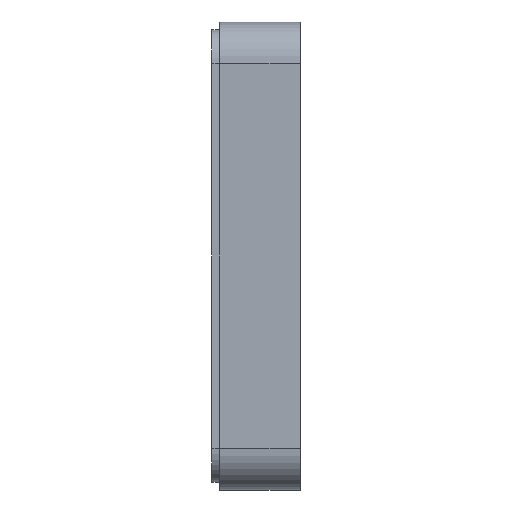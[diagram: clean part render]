
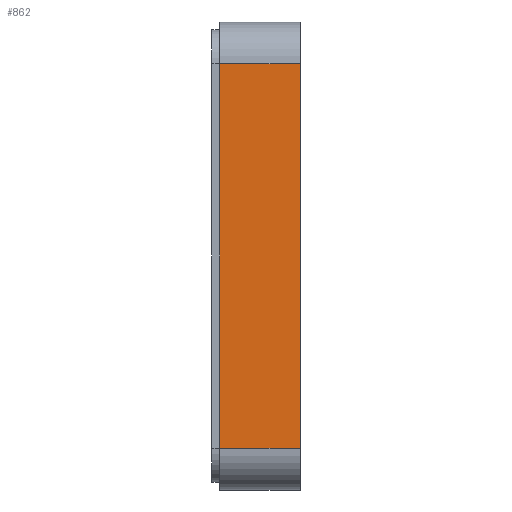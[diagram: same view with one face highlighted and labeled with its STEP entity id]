
A CAD part, left-side view. The second image highlights one B-rep face of the part: STEP entity #862.
In plain terms, the highlighted planar face has unit normal (-1, 0, 0).
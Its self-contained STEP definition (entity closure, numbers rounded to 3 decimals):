
#17 = EDGE_CURVE ( 'NONE', #93, #276, #2323, .T. ) ;
#93 = VERTEX_POINT ( 'NONE', #1922 ) ;
#106 = ORIENTED_EDGE ( 'NONE', *, *, #17, .T. ) ;
#207 = CARTESIAN_POINT ( 'NONE',  ( -72., 17., -36.9 ) ) ;
#276 = VERTEX_POINT ( 'NONE', #2146 ) ;
#461 = VECTOR ( 'NONE', #2705, 1000. ) ;
#640 = FACE_OUTER_BOUND ( 'NONE', #1306, .T. ) ;
#686 = CARTESIAN_POINT ( 'NONE',  ( -72., 15.5, -36.9 ) ) ;
#759 = LINE ( 'NONE', #207, #1330 ) ;
#862 = ADVANCED_FACE ( 'NONE', ( #640 ), #1011, .F. ) ;
#952 = EDGE_CURVE ( 'NONE', #2794, #2456, #1945, .T. ) ;
#991 = DIRECTION ( 'NONE',  ( 0., 0., 1. ) ) ;
#1011 = PLANE ( 'NONE',  #2026 ) ;
#1020 = ORIENTED_EDGE ( 'NONE', *, *, #1588, .T. ) ;
#1306 = EDGE_LOOP ( 'NONE', ( #1759, #1020, #106, #3068 ) ) ;
#1330 = VECTOR ( 'NONE', #2867, 1000. ) ;
#1588 = EDGE_CURVE ( 'NONE', #2794, #93, #759, .T. ) ;
#1759 = ORIENTED_EDGE ( 'NONE', *, *, #952, .F. ) ;
#1922 = CARTESIAN_POINT ( 'NONE',  ( -72., 0., -36.9 ) ) ;
#1945 = LINE ( 'NONE', #2217, #2016 ) ;
#2004 = DIRECTION ( 'NONE',  ( 1., 0., 0. ) ) ;
#2016 = VECTOR ( 'NONE', #991, 1000. ) ;
#2026 = AXIS2_PLACEMENT_3D ( 'NONE', #2710, #2004, #2969 ) ;
#2111 = DIRECTION ( 'NONE',  ( 0., 1., 0. ) ) ;
#2123 = CARTESIAN_POINT ( 'NONE',  ( -72., 17., 36.9 ) ) ;
#2129 = LINE ( 'NONE', #2123, #2224 ) ;
#2146 = CARTESIAN_POINT ( 'NONE',  ( -72., 0., 36.9 ) ) ;
#2217 = CARTESIAN_POINT ( 'NONE',  ( -72., 15.5, -44.9 ) ) ;
#2224 = VECTOR ( 'NONE', #2111, 1000. ) ;
#2323 = LINE ( 'NONE', #2422, #461 ) ;
#2422 = CARTESIAN_POINT ( 'NONE',  ( -72., 0., -44.9 ) ) ;
#2456 = VERTEX_POINT ( 'NONE', #2979 ) ;
#2705 = DIRECTION ( 'NONE',  ( 0., 0., 1. ) ) ;
#2710 = CARTESIAN_POINT ( 'NONE',  ( -72., 17., -44.9 ) ) ;
#2794 = VERTEX_POINT ( 'NONE', #686 ) ;
#2867 = DIRECTION ( 'NONE',  ( 0., -1., 0. ) ) ;
#2969 = DIRECTION ( 'NONE',  ( 0., 0., -1. ) ) ;
#2979 = CARTESIAN_POINT ( 'NONE',  ( -72., 15.5, 36.9 ) ) ;
#3063 = EDGE_CURVE ( 'NONE', #276, #2456, #2129, .T. ) ;
#3068 = ORIENTED_EDGE ( 'NONE', *, *, #3063, .T. ) ;
